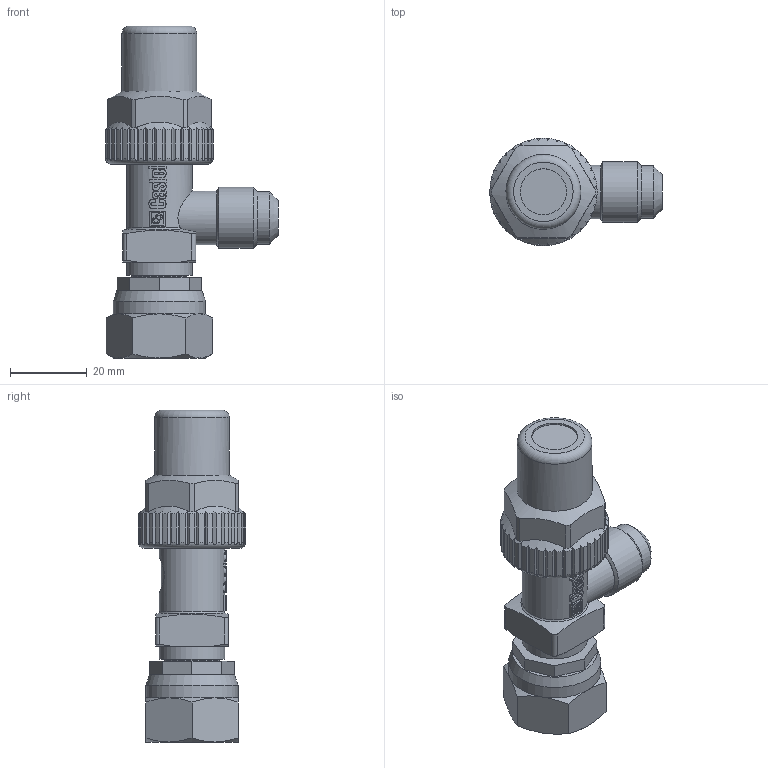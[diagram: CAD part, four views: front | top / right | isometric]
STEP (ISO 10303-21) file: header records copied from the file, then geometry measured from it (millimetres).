
FILE_DESCRIPTION(/* description */ (''),/* implementation_level */ '2;1');
FILE_NAME(/* name */ '6110_X13',/* time_stamp */ '2009-03-20T09:37:02+01:00',/* author */ (''),/* organization */ (''),/* preprocessor_version */ 'ST-DEVELOPER v9',/* originating_system */ 'UGS - NX 4.0',/* authorisation */ '');
FILE_SCHEMA (('CONFIG_CONTROL_DESIGN'));
Length unit declared in the file: millimetre
Products named in the file (1): FCol8483sn0l
Bounding box: 45 x 28 x 86.5 mm (x, y, z)
Volume: 24903.1 mm3; surface area: 14478.7 mm2
Topology: 2 solids, 2 shells, 428 faces, 1145 edges, 754 vertices
Faces by surface type: plane 235, cylinder 98, extrusion 51, cone 35, torus 8, revolution 1
Full cylindrical faces by diameter (mm): 7 x1, 8 x2, 9 x1, 10.1 x1, 12 x1, 13.1 x1, 13.7 x1, 14 x1, 14.3 x1, 14.346 x1, 15.5 x2, 15.875 x1, 17 x3, 17.8 x1, 18 x1, 18.55 x1, 19.5 x1, 20 x1, 24 x1
Entity records: 15151 total; most frequent: CARTESIAN_POINT 5064, ORIENTED_EDGE 2154, DIRECTION 1881, EDGE_CURVE 1077, VERTEX_POINT 735, AXIS2_PLACEMENT_3D 694, EDGE_LOOP 514, VECTOR 492
